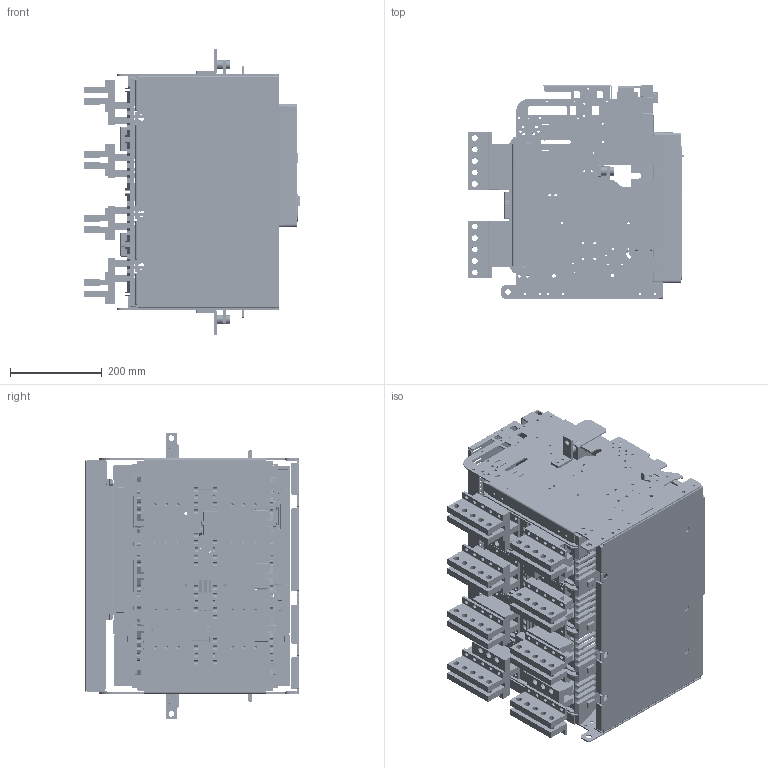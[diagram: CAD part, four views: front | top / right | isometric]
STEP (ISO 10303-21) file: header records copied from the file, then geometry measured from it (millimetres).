
FILE_DESCRIPTION((''),'2;1');
FILE_NAME('HG_18_B404V_ASM_ASM','2019-03-27T',('HHI'),(''),'PRO/ENGINEER BY PARAMETRIC TECHNOLOGY CORPORATION, 2012453','PRO/ENGINEER BY PARAMETRIC TECHNOLOGY CORPORATION, 2012453','');
FILE_SCHEMA(('CONFIG_CONTROL_DESIGN'));
Products named in the file (49): PRT0254; PRT0255; ASM0069_ASM; PRT0256; PRT0257; PRT0258; ASM0070_ASM; PRT0259; PRT0260; PRT0261; PRT0262; PRT0263; ASM0071_ASM; PRT0264; COMMON_CONDUCTOR_V_8; ASM0072_ASM; PRT0265; COMMON_ST_6; PRT0266; PRT0267; PRT0269; PRT0270; PRT0271; PRT0272; ASM0075_ASM; PRT0273; PRT0274; PRT0275; ASM0076_ASM; PRT0278; ASM0074_ASM; PRT0279; ASM0073_ASM; PRT0280; PRT0281; PRT0282; PRT0283; PRT0284; ASM0077_ASM; PRT0285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
Assembly tree (77 placements, depth 6):
  HG_18_B404V_ASM_ASM
    B404V_ASM_19_ASM
      ASM0069_ASM
        PRT0254
        PRT0255
      PRT0256
      ASM0070_ASM
        PRT0257
        PRT0258
      PRT0259
      PRT0260
      PRT0261
      ASM0071_ASM  x4
        PRT0262
        PRT0263
      ASM0072_ASM  x4
        PRT0264
        COMMON_CONDUCTOR_V_8
      PRT0265  x4
      COMMON_ST_6  x4
      PRT0266  x16
      ASM0073_ASM
        ASM0074_ASM
          PRT0267
          ASM0075_ASM
            PRT0269
            PRT0270
            PRT0271
            PRT0272
          ASM0076_ASM
            PRT0273
            PRT0274
            PRT0275
          PRT0278
        PRT0279
      PRT0280
      ASM0077_ASM
        PRT0281
        PRT0282
        PRT0283
        PRT0284
      ASM0078_ASM
        PRT0285
        PRT0286
        FIX_BLOCK_CRADLE_6
        BOLT_5
    HG_FRONT_COVER_40
    4AT-06477S03
    4AT-06477S04
Bounding box: 472.03 x 466.35 x 626 mm (x, y, z)
Volume: 9655753.6 mm3; surface area: 4666083.7 mm2
Topology: 78 solids, 78 shells, 16779 faces, 48925 edges, 31944 vertices
Faces by surface type: plane 11736, cylinder 4242, torus 251, sphere 164, cone 164, extrusion 141, bspline 81
Entity records: 504160 total; most frequent: CARTESIAN_POINT 95772, ORIENTED_EDGE 88122, DIRECTION 80422, EDGE_CURVE 44061, VECTOR 36440, LINE 36299, VERTEX_POINT 28756, AXIS2_PLACEMENT_3D 21991
